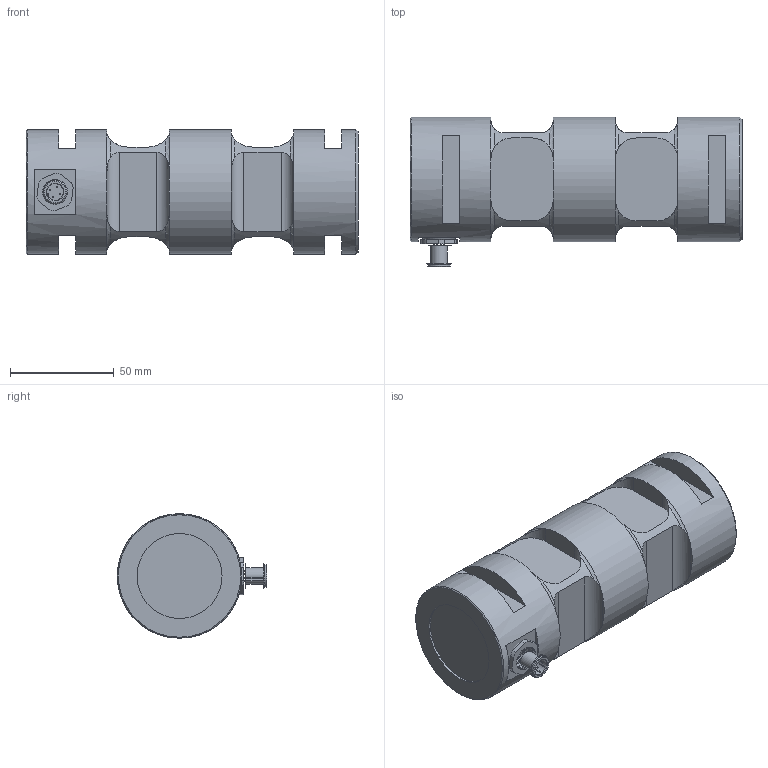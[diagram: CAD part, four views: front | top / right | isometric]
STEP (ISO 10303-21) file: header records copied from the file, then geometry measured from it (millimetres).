
FILE_DESCRIPTION(('HOOPS Exchange Step'),'2;1');
FILE_NAME('C:\Users\mathias\AppData\Local\Temp\Alibre Design\export-70865590-01CD-425F-9BED-23FCDD692CF2.stp','2019-07-30T09:01:28+02:00',('mathias'),('Alibre'),'HOOPS Exchange 2019.2','Alibre','Unknown authorisation');
FILE_SCHEMA( ('AP203_CONFIGURATION_CONTROLLED_3D_DESIGN_OF_MECHANICAL_PARTS_AND_ASSEMBLIES_MIM_LF') );
Length unit declared in the file: centimetre
Products named in the file (3): mb1436_001(a); M12-4P-Stecker-mit-Farbcode; mb1436_000(a)
Assembly tree (2 placements, depth 2):
  mb1436_000(a)
    mb1436_001(a)
    M12-4P-Stecker-mit-Farbcode
Bounding box: 160 x 72 x 60 mm (x, y, z)
Volume: 382771.6 mm3; surface area: 42985.2 mm2
Topology: 1 solids, 18 shells, 183 faces, 492 edges, 320 vertices
Faces by surface type: plane 92, cylinder 60, torus 18, cone 8, bspline 5
Full cylindrical faces by diameter (mm): 0.5 x8, 8 x2, 10 x1, 11 x1, 13 x2, 14.5 x1, 41 x1, 60 x3
Entity records: 9514 total; most frequent: CARTESIAN_POINT 4897, DIRECTION 913, ORIENTED_EDGE 909, EDGE_CURVE 492, AXIS2_PLACEMENT_3D 367, VERTEX_POINT 320, EDGE_LOOP 203, FACE_BOUND 203
